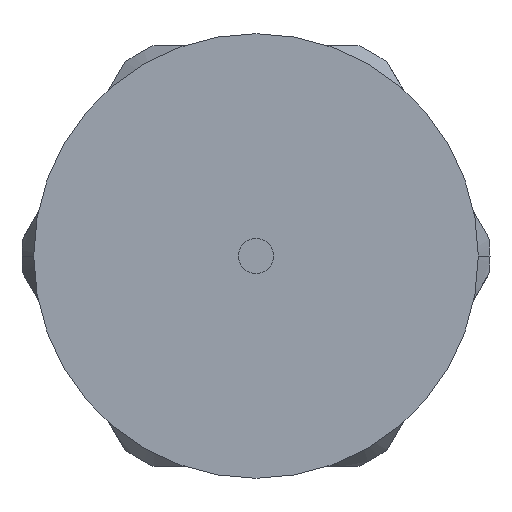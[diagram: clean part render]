
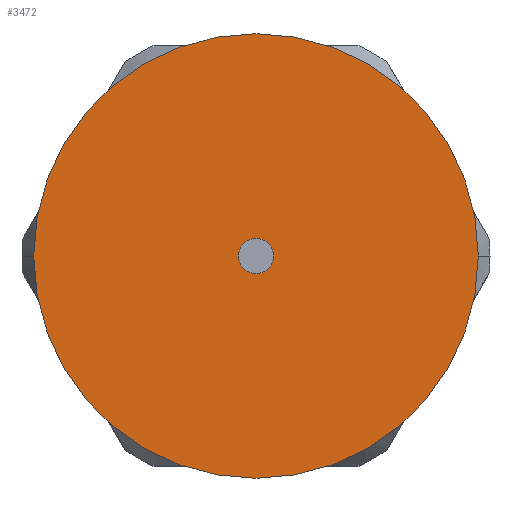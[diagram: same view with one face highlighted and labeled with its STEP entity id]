
A CAD part, left-side view. The second image highlights one B-rep face of the part: STEP entity #3472.
In plain terms, the highlighted planar face has unit normal (-1, 0, 0).
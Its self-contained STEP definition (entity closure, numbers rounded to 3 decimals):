
#16=CARTESIAN_POINT('',(-110.,0.,0.));
#17=DIRECTION('',(-1.,0.,0.));
#18=DIRECTION('',(0.,1.,0.));
#19=AXIS2_PLACEMENT_3D('',#16,#17,#18);
#32=CARTESIAN_POINT('',(-110.,0.,0.));
#33=DIRECTION('',(1.,0.,0.));
#34=DIRECTION('',(0.,1.,0.));
#35=AXIS2_PLACEMENT_3D('',#32,#33,#34);
#47=CARTESIAN_POINT('',(-110.,0.,0.));
#48=DIRECTION('',(-1.,0.,0.));
#49=DIRECTION('',(0.,1.,0.));
#50=AXIS2_PLACEMENT_3D('',#47,#48,#49);
#55=CARTESIAN_POINT('',(-110.,0.,0.));
#56=DIRECTION('',(1.,0.,0.));
#57=DIRECTION('',(0.,1.,0.));
#58=AXIS2_PLACEMENT_3D('',#55,#56,#57);
#3244=CARTESIAN_POINT('',(-110.,19.,0.));
#3246=VERTEX_POINT('',#3244);
#3268=CARTESIAN_POINT('',(-110.,-19.,0.));
#3270=VERTEX_POINT('',#3268);
#3391=CARTESIAN_POINT('',(-110.,1.5,0.));
#3393=VERTEX_POINT('',#3391);
#3395=CARTESIAN_POINT('',(-110.,-1.5,0.));
#3397=VERTEX_POINT('',#3395);
#3457=CARTESIAN_POINT('',(-110.,0.,0.));
#3458=DIRECTION('',(-1.,0.,0.));
#3459=DIRECTION('',(0.,1.,0.));
#3460=AXIS2_PLACEMENT_3D('',#3457,#3458,#3459);
#3461=PLANE('',#3460);
#3463=ORIENTED_EDGE('',*,*,#3462,.F.);
#3465=ORIENTED_EDGE('',*,*,#3464,.T.);
#3466=EDGE_LOOP('',(#3463,#3465));
#3467=FACE_OUTER_BOUND('',#3466,.F.);
#3468=ORIENTED_EDGE('',*,*,#3449,.F.);
#3469=ORIENTED_EDGE('',*,*,#3438,.T.);
#3470=EDGE_LOOP('',(#3468,#3469));
#3471=FACE_BOUND('',#3470,.F.);
#20=CIRCLE('',#19,1.5);
#36=CIRCLE('',#35,1.5);
#51=CIRCLE('',#50,19.);
#59=CIRCLE('',#58,19.);
#3438=EDGE_CURVE('',#3393,#3397,#20,.T.);
#3449=EDGE_CURVE('',#3393,#3397,#36,.T.);
#3462=EDGE_CURVE('',#3246,#3270,#51,.T.);
#3464=EDGE_CURVE('',#3246,#3270,#59,.T.);
#3472=ADVANCED_FACE('',(#3467,#3471),#3461,.T.);
